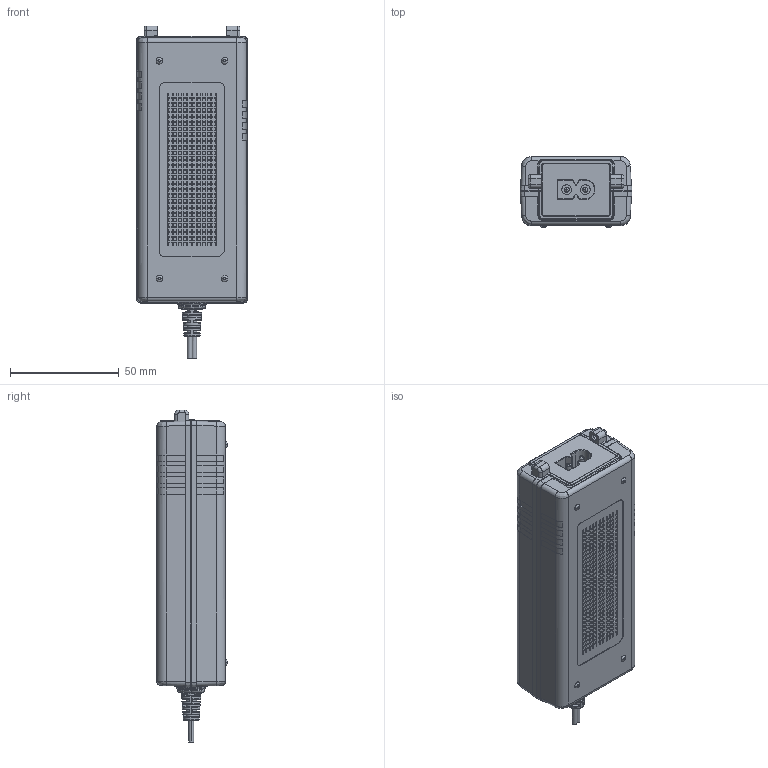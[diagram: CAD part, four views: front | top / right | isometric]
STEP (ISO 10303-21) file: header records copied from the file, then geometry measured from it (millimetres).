
FILE_DESCRIPTION (( 'STEP AP214' ), '1' );
FILE_NAME ('AKM45 Class II.STEP', '2024-03-27T14:50:57', ( '' ), ( '' ), 'SwSTEP 2.0', 'SolidWorks 2022', '' );
FILE_SCHEMA (( 'AUTOMOTIVE_DESIGN' ));
Length unit declared in the file: inch
Products named in the file (7): 2PIN; LED_1_1; AKM45 Class II; SR_2_1; AKM45 Case Top; AKM45 Case Bottom; AKM45 Class II sub-assy
Assembly tree (6 placements, depth 3):
  AKM45 Class II
    AKM45 Class II sub-assy
      AKM45 Case Top
      AKM45 Case Bottom
      SR_2_1
      LED_1_1
      2PIN
Bounding box: 51.4 x 32.25 x 152.45 mm (x, y, z)
Volume: 76751 mm3; surface area: 64114.3 mm2
Topology: 5 solids, 5 shells, 2895 faces, 7300 edges, 4817 vertices
Faces by surface type: plane 2458, cylinder 273, bspline 126, cone 24, torus 14
Entity records: 95854 total; most frequent: CARTESIAN_POINT 30791, ORIENTED_EDGE 14588, DIRECTION 10868, EDGE_CURVE 7294, VERTEX_POINT 4817, VECTOR 4588, LINE 4588, EDGE_LOOP 3309
